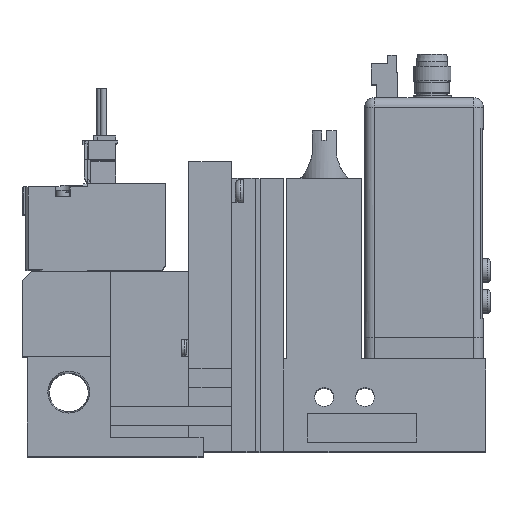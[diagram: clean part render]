
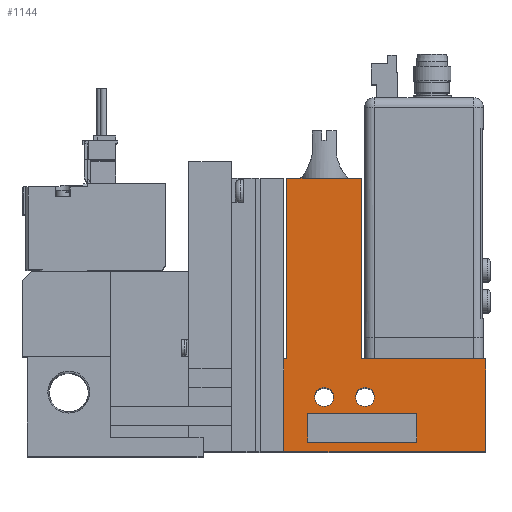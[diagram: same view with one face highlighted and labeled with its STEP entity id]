
A CAD part, top view. The second image highlights one B-rep face of the part: STEP entity #1144.
In plain terms, the highlighted planar face has unit normal (0, 0, 1).
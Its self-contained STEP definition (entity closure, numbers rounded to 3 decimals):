
#1144=ADVANCED_FACE('',(#4824,#4825,#4826,#4827),#4828,.T.);
#4824=FACE_BOUND('',#12530,.T.);
#4825=FACE_BOUND('',#12531,.T.);
#4826=FACE_BOUND('',#12532,.T.);
#4827=FACE_OUTER_BOUND('',#12533,.T.);
#4828=PLANE('',#12534);
#12530=EDGE_LOOP('',(#22258,#22259,#22260,#22261));
#12531=EDGE_LOOP('',(#22262));
#12532=EDGE_LOOP('',(#22263));
#12533=EDGE_LOOP('',(#22264,#22265,#22266,#22267,#22268,#22269,#22270,#22271));
#12534=AXIS2_PLACEMENT_3D('',#22272,#22273,#22274);
#22258=ORIENTED_EDGE('',*,*,#46980,.T.);
#22259=ORIENTED_EDGE('',*,*,#46981,.T.);
#22260=ORIENTED_EDGE('',*,*,#46911,.T.);
#22261=ORIENTED_EDGE('',*,*,#46982,.T.);
#22262=ORIENTED_EDGE('',*,*,#46983,.T.);
#22263=ORIENTED_EDGE('',*,*,#46984,.T.);
#22264=ORIENTED_EDGE('',*,*,#46797,.F.);
#22265=ORIENTED_EDGE('',*,*,#46985,.T.);
#22266=ORIENTED_EDGE('',*,*,#46986,.T.);
#22267=ORIENTED_EDGE('',*,*,#46987,.T.);
#22268=ORIENTED_EDGE('',*,*,#46951,.T.);
#22269=ORIENTED_EDGE('',*,*,#46988,.T.);
#22270=ORIENTED_EDGE('',*,*,#46971,.T.);
#22271=ORIENTED_EDGE('',*,*,#46916,.T.);
#22272=CARTESIAN_POINT('',(0.0,0.0,10.0));
#22273=DIRECTION('',(0.0,0.0,1.0));
#22274=DIRECTION('',(1.0,0.0,0.0));
#46797=EDGE_CURVE('',#56515,#56517,#56518,.T.);
#46911=EDGE_CURVE('',#56723,#56725,#56727,.T.);
#46916=EDGE_CURVE('',#56733,#56517,#56734,.T.);
#46951=EDGE_CURVE('',#56788,#56786,#56789,.T.);
#46971=EDGE_CURVE('',#56819,#56733,#56820,.T.);
#46980=EDGE_CURVE('',#56832,#56833,#56834,.T.);
#46981=EDGE_CURVE('',#56833,#56723,#56835,.T.);
#46982=EDGE_CURVE('',#56725,#56832,#56836,.T.);
#46983=EDGE_CURVE('',#56837,#56837,#56838,.T.);
#46984=EDGE_CURVE('',#56839,#56839,#56840,.T.);
#46985=EDGE_CURVE('',#56515,#56841,#56842,.T.);
#46986=EDGE_CURVE('',#56841,#56843,#56844,.T.);
#46987=EDGE_CURVE('',#56843,#56788,#56845,.T.);
#46988=EDGE_CURVE('',#56786,#56819,#56846,.T.);
#56515=VERTEX_POINT('',#70983);
#56517=VERTEX_POINT('',#70986);
#56518=LINE('',#70987,#70988);
#56723=VERTEX_POINT('',#71318);
#56725=VERTEX_POINT('',#71321);
#56727=LINE('',#71324,#71325);
#56733=VERTEX_POINT('',#71335);
#56734=LINE('',#71336,#71337);
#56786=VERTEX_POINT('',#71419);
#56788=VERTEX_POINT('',#71422);
#56789=LINE('',#71423,#71424);
#56819=VERTEX_POINT('',#71472);
#56820=LINE('',#71473,#71474);
#56832=VERTEX_POINT('',#71494);
#56833=VERTEX_POINT('',#71495);
#56834=LINE('',#71496,#71497);
#56835=LINE('',#71498,#71499);
#56836=LINE('',#71500,#71501);
#56837=VERTEX_POINT('',#71502);
#56838=CIRCLE('',#71503,2.0);
#56839=VERTEX_POINT('',#71504);
#56840=CIRCLE('',#71505,2.0);
#56841=VERTEX_POINT('',#71506);
#56842=LINE('',#71507,#71508);
#56843=VERTEX_POINT('',#71509);
#56844=LINE('',#71510,#71511);
#56845=LINE('',#71512,#71513);
#56846=LINE('',#71514,#71515);
#70983=CARTESIAN_POINT('',(55.1,0.0,10.0));
#70986=CARTESIAN_POINT('',(55.1,19.5,10.0));
#70987=CARTESIAN_POINT('',(55.1,0.0,10.0));
#70988=VECTOR('',#91599,1.0);
#71318=CARTESIAN_POINT('',(83.1,8.0,10.0));
#71321=CARTESIAN_POINT('',(83.1,2.0,10.0));
#71324=CARTESIAN_POINT('',(83.1,0.0,10.0));
#71325=VECTOR('',#91736,1.0);
#71335=CARTESIAN_POINT('',(55.75,19.5,10.0));
#71336=CARTESIAN_POINT('',(55.75,19.5,10.0));
#71337=VECTOR('',#91741,1.0);
#71419=CARTESIAN_POINT('',(71.45,57.5,10.0));
#71422=CARTESIAN_POINT('',(71.45,19.5,10.0));
#71423=CARTESIAN_POINT('',(71.45,19.5,10.0));
#71424=VECTOR('',#91782,1.0);
#71472=CARTESIAN_POINT('',(55.75,57.5,10.0));
#71473=CARTESIAN_POINT('',(55.75,57.5,10.0));
#71474=VECTOR('',#91804,1.0);
#71494=CARTESIAN_POINT('',(60.1,2.0,10.0));
#71495=CARTESIAN_POINT('',(60.1,8.0,10.0));
#71496=CARTESIAN_POINT('',(60.1,0.0,10.0));
#71497=VECTOR('',#91813,1.0);
#71498=CARTESIAN_POINT('',(0.0,8.0,10.0));
#71499=VECTOR('',#91814,1.0);
#71500=CARTESIAN_POINT('',(0.0,2.0,10.0));
#71501=VECTOR('',#91815,1.0);
#71502=CARTESIAN_POINT('',(65.6,11.5,10.0));
#71503=AXIS2_PLACEMENT_3D('',#91816,#91817,#91818);
#71504=CARTESIAN_POINT('',(74.2,11.5,10.0));
#71505=AXIS2_PLACEMENT_3D('',#91819,#91820,#91821);
#71506=CARTESIAN_POINT('',(97.6,0.0,10.0));
#71507=CARTESIAN_POINT('',(18.6,0.0,10.0));
#71508=VECTOR('',#91822,1.0);
#71509=CARTESIAN_POINT('',(97.6,19.5,10.0));
#71510=CARTESIAN_POINT('',(97.6,0.0,10.0));
#71511=VECTOR('',#91823,1.0);
#71512=CARTESIAN_POINT('',(97.6,19.5,10.0));
#71513=VECTOR('',#91824,1.0);
#71514=CARTESIAN_POINT('',(71.45,57.5,10.0));
#71515=VECTOR('',#91825,1.0);
#91599=DIRECTION('',(0.0,1.0,0.0));
#91736=DIRECTION('',(0.0,-1.0,0.0));
#91741=DIRECTION('',(-1.0,0.0,0.0));
#91782=DIRECTION('',(0.0,1.0,0.0));
#91804=DIRECTION('',(0.0,-1.0,0.0));
#91813=DIRECTION('',(0.0,1.0,0.0));
#91814=DIRECTION('',(1.0,0.0,0.0));
#91815=DIRECTION('',(-1.0,0.0,0.0));
#91816=CARTESIAN_POINT('',(63.6,11.5,10.0));
#91817=DIRECTION('',(0.0,0.0,-1.0));
#91818=DIRECTION('',(1.0,0.0,0.0));
#91819=CARTESIAN_POINT('',(72.2,11.5,10.0));
#91820=DIRECTION('',(0.0,0.0,-1.0));
#91821=DIRECTION('',(1.0,0.0,0.0));
#91822=DIRECTION('',(1.0,0.0,0.0));
#91823=DIRECTION('',(0.0,1.0,0.0));
#91824=DIRECTION('',(-1.0,0.0,0.0));
#91825=DIRECTION('',(-1.0,0.0,0.0));
